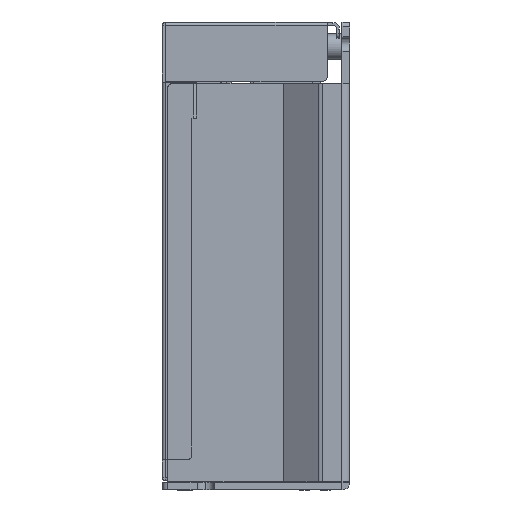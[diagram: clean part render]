
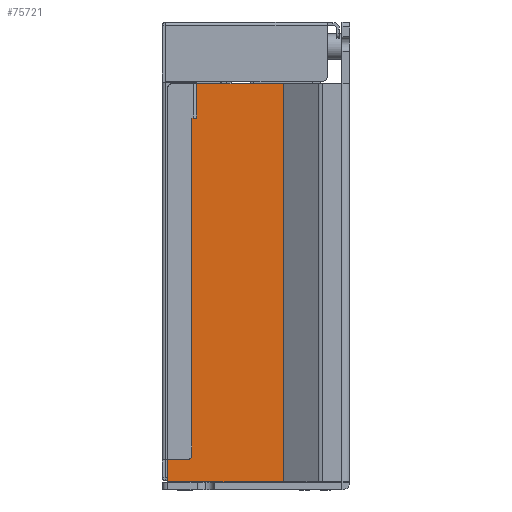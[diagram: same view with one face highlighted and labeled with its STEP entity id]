
A CAD part, left-side view. The second image highlights one B-rep face of the part: STEP entity #75721.
In plain terms, the highlighted planar face has unit normal (-1, 0, 0).
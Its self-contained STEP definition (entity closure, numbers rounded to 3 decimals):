
#4112 = VECTOR ( 'NONE', #5550, 1000. ) ;
#4113 = VECTOR ( 'NONE', #5553, 1000. ) ;
#4114 = AXIS2_PLACEMENT_3D ( 'NONE', #5481, #5557, #5558 ) ;
#4118 = VECTOR ( 'NONE', #5568, 1000. ) ;
#4132 = VECTOR ( 'NONE', #5610, 1000. ) ;
#5481 = CARTESIAN_POINT ( 'NONE',  ( -192.9, 36., -13.5 ) ) ;
#5548 = LINE ( 'NONE', #5549, #4112 ) ;
#5549 = CARTESIAN_POINT ( 'NONE',  ( -192.9, 0.056, -12.5 ) ) ;
#5550 = DIRECTION ( 'NONE',  ( 0., -1., 0. ) ) ;
#5551 = LINE ( 'NONE', #5552, #4113 ) ;
#5552 = CARTESIAN_POINT ( 'NONE',  ( -192.9, 35.456, -93.3 ) ) ;
#5553 = DIRECTION ( 'NONE',  ( 0., 1., 0. ) ) ;
#5557 = DIRECTION ( 'NONE',  ( 1., 0., 0. ) ) ;
#5558 = DIRECTION ( 'NONE',  ( 0., -1., 0. ) ) ;
#5566 = LINE ( 'NONE', #5567, #4118 ) ;
#5567 = CARTESIAN_POINT ( 'NONE',  ( -192.9, 37., -13.5 ) ) ;
#5568 = DIRECTION ( 'NONE',  ( 0., 0., 1. ) ) ;
#5608 = LINE ( 'NONE', #5609, #4132 ) ;
#5609 = CARTESIAN_POINT ( 'NONE',  ( -192.9, 13.476, -13.5 ) ) ;
#5610 = DIRECTION ( 'NONE',  ( 0., 0., 1. ) ) ;
#10047 = CARTESIAN_POINT ( 'NONE',  ( -192.9, 13.476, -93.3 ) ) ;
#10048 = CARTESIAN_POINT ( 'NONE',  ( -192.9, 13.476, -12.5 ) ) ;
#10055 = CARTESIAN_POINT ( 'NONE',  ( -192.9, 37., -93.3 ) ) ;
#10056 = CARTESIAN_POINT ( 'NONE',  ( -192.9, 37., -13.5 ) ) ;
#10058 = CARTESIAN_POINT ( 'NONE',  ( -192.9, 36., -12.5 ) ) ;
#42387 = EDGE_LOOP ( 'NONE', ( #55143, #55140, #55141, #55139, #55138 ) ) ;
#48499 = FACE_OUTER_BOUND ( 'NONE', #42387, .T. ) ;
#48518 = AXIS2_PLACEMENT_3D ( 'NONE', #57856, #57857, #57859 ) ;
#51491 = EDGE_CURVE ( 'NONE', #53786, #53776, #5548, .T. ) ;
#51492 = EDGE_CURVE ( 'NONE', #53775, #53783, #5551, .T. ) ;
#51494 = EDGE_CURVE ( 'NONE', #53784, #53786, #79369, .T. ) ;
#51497 = EDGE_CURVE ( 'NONE', #53783, #53784, #5566, .T. ) ;
#51511 = EDGE_CURVE ( 'NONE', #53775, #53776, #5608, .T. ) ;
#53775 = VERTEX_POINT ( 'NONE', #10047 ) ;
#53776 = VERTEX_POINT ( 'NONE', #10048 ) ;
#53783 = VERTEX_POINT ( 'NONE', #10055 ) ;
#53784 = VERTEX_POINT ( 'NONE', #10056 ) ;
#53786 = VERTEX_POINT ( 'NONE', #10058 ) ;
#55138 = ORIENTED_EDGE ( 'NONE', *, *, #51497, .F. ) ;
#55139 = ORIENTED_EDGE ( 'NONE', *, *, #51494, .F. ) ;
#55140 = ORIENTED_EDGE ( 'NONE', *, *, #51511, .T. ) ;
#55141 = ORIENTED_EDGE ( 'NONE', *, *, #51491, .F. ) ;
#55143 = ORIENTED_EDGE ( 'NONE', *, *, #51492, .F. ) ;
#57854 = PLANE ( 'NONE',  #48518 ) ;
#57856 = CARTESIAN_POINT ( 'NONE',  ( -192.9, 34.456, -13.5 ) ) ;
#57857 = DIRECTION ( 'NONE',  ( -1., 0., 0. ) ) ;
#57859 = DIRECTION ( 'NONE',  ( 0., -1., 0. ) ) ;
#75721 = ADVANCED_FACE ( 'NONE', ( #48499 ), #57854, .T. ) ;
#79369 = CIRCLE ( 'NONE', #4114, 1. ) ;
